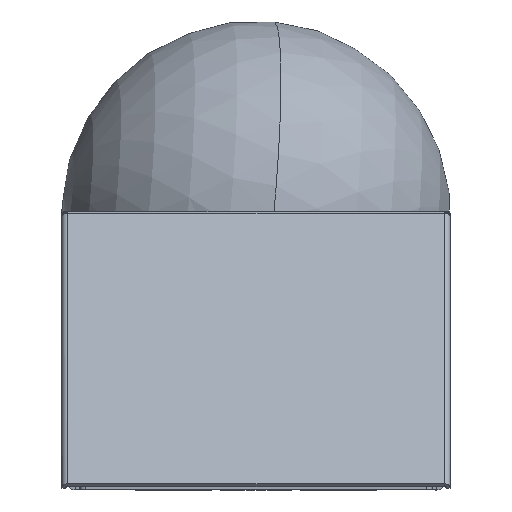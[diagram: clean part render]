
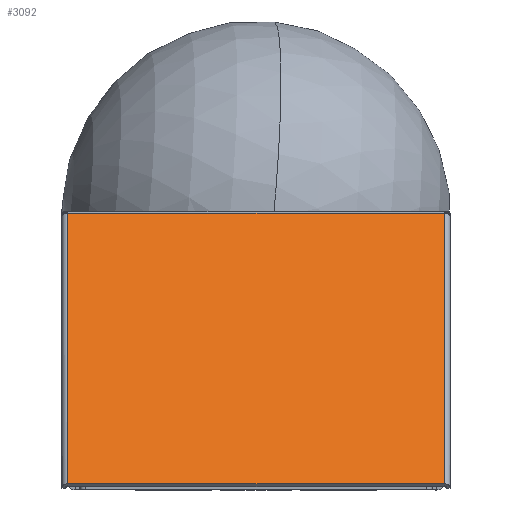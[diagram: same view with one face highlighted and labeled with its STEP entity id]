
A CAD part, front view. The second image highlights one B-rep face of the part: STEP entity #3092.
In plain terms, the highlighted planar face has unit normal (0, -0.707, 0.707) as drawn and (0, -1, 0) by its records, which use the part's own axes.
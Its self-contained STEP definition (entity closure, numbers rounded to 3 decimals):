
#197 = VECTOR ( 'NONE', #6032, 1000. ) ;
#300 = ORIENTED_EDGE ( 'NONE', *, *, #5679, .F. ) ;
#631 = LINE ( 'NONE', #5487, #1068 ) ;
#870 = CARTESIAN_POINT ( 'NONE',  ( 147.763, -1.5, 147.763 ) ) ;
#1068 = VECTOR ( 'NONE', #8203, 1000. ) ;
#1313 = CARTESIAN_POINT ( 'NONE',  ( 147.763, -1.5, 2.237 ) ) ;
#1864 = EDGE_LOOP ( 'NONE', ( #3901, #4483, #2786, #300 ) ) ;
#2002 = CARTESIAN_POINT ( 'NONE',  ( 0., -1.5, 147.763 ) ) ;
#2038 = CARTESIAN_POINT ( 'NONE',  ( 148.323, -1.5, 147.763 ) ) ;
#2447 = LINE ( 'NONE', #6628, #4523 ) ;
#2786 = ORIENTED_EDGE ( 'NONE', *, *, #4454, .T. ) ;
#2793 = VECTOR ( 'NONE', #7078, 1000. ) ;
#3092 = ADVANCED_FACE ( 'NONE', ( #7177 ), #5859, .F. ) ;
#3415 = CARTESIAN_POINT ( 'NONE',  ( 0., -1.5, 2.237 ) ) ;
#3447 = LINE ( 'NONE', #2038, #197 ) ;
#3901 = ORIENTED_EDGE ( 'NONE', *, *, #4544, .T. ) ;
#3954 = VERTEX_POINT ( 'NONE', #3415 ) ;
#4314 = CARTESIAN_POINT ( 'NONE',  ( 0., -1.5, 2.237 ) ) ;
#4334 = AXIS2_PLACEMENT_3D ( 'NONE', #4540, #6798, #4498 ) ;
#4454 = EDGE_CURVE ( 'NONE', #7255, #7178, #3447, .T. ) ;
#4483 = ORIENTED_EDGE ( 'NONE', *, *, #4806, .T. ) ;
#4498 = DIRECTION ( 'NONE',  ( 0., 0., 1. ) ) ;
#4523 = VECTOR ( 'NONE', #6587, 1000. ) ;
#4540 = CARTESIAN_POINT ( 'NONE',  ( 0., -1.5, 0. ) ) ;
#4544 = EDGE_CURVE ( 'NONE', #3954, #4848, #7766, .T. ) ;
#4806 = EDGE_CURVE ( 'NONE', #4848, #7255, #631, .T. ) ;
#4848 = VERTEX_POINT ( 'NONE', #1313 ) ;
#5487 = CARTESIAN_POINT ( 'NONE',  ( 147.763, -1.5, 1.677 ) ) ;
#5679 = EDGE_CURVE ( 'NONE', #3954, #7178, #2447, .T. ) ;
#5859 = PLANE ( 'NONE',  #4334 ) ;
#6032 = DIRECTION ( 'NONE',  ( -1., 0., 0. ) ) ;
#6587 = DIRECTION ( 'NONE',  ( 0., 0., 1. ) ) ;
#6628 = CARTESIAN_POINT ( 'NONE',  ( 0., -1.5, 0. ) ) ;
#6798 = DIRECTION ( 'NONE',  ( 0., 1., 0. ) ) ;
#7078 = DIRECTION ( 'NONE',  ( 1., 0., 0. ) ) ;
#7177 = FACE_OUTER_BOUND ( 'NONE', #1864, .T. ) ;
#7178 = VERTEX_POINT ( 'NONE', #2002 ) ;
#7255 = VERTEX_POINT ( 'NONE', #870 ) ;
#7766 = LINE ( 'NONE', #4314, #2793 ) ;
#8203 = DIRECTION ( 'NONE',  ( 0., 0., 1. ) ) ;
